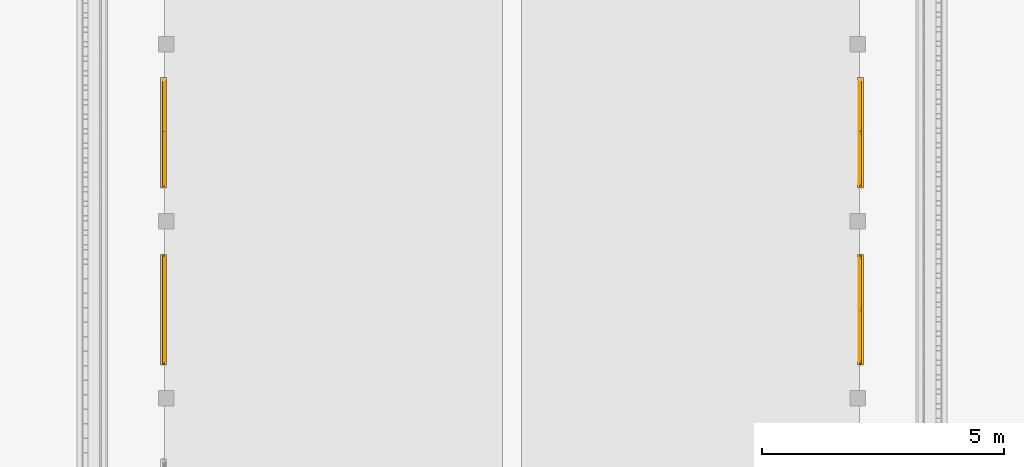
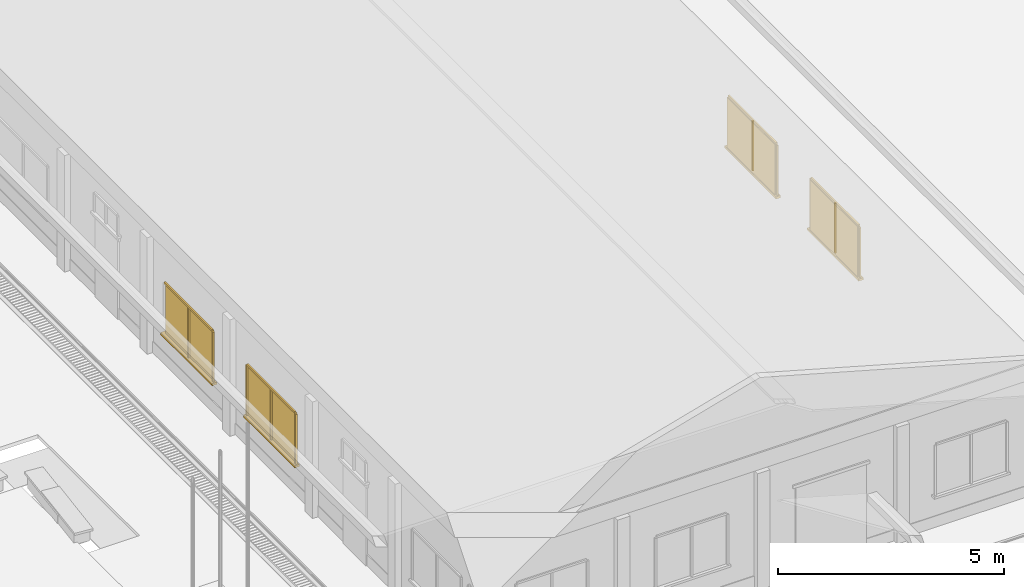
# One storey, part 47 of 151: 22 windows.
"""IFC2X3 building model written with IfcOpenShell, lengths in metres."""

from ifc_helpers import new_model, si_unit, origin, origin_with_axes, place, context, subcontext, project, spatial, faceted_brep, element, save


model = new_model("IFC2X3")

# Units and contexts
model_context = context("Model", 3, precision=1e-05, world=origin_with_axes())
body_context = subcontext(model_context, "Body", "Model", "MODEL_VIEW")
ifc_project = project(units=[si_unit("LENGTHUNIT", "METRE"), si_unit("AREAUNIT", "SQUARE_METRE"), si_unit("VOLUMEUNIT", "CUBIC_METRE"), si_unit("PLANEANGLEUNIT", "RADIAN")], contexts=[model_context])

# Site, building, storey
site_placement = place(None, origin_with_axes())
site = spatial("IfcSite", under=ifc_project, at=site_placement, Name="Predio Los Mangos - Morales, San Martín", CompositionType="ELEMENT")
building_placement = place(site_placement, origin())
building = spatial("IfcBuilding", under=site, at=building_placement, Name="Hogar de Refugio Temporal", CompositionType="ELEMENT")
storey_placement = place(building_placement, origin())
storey = spatial("IfcBuildingStorey", under=building, at=storey_placement, Name="NIVEL 1 (NPT +0.00)", CompositionType="ELEMENT", Elevation=0.0)

# Windows
window_1_placement = place(storey_placement, origin())
element("IfcWindow", 1, at=window_1_placement, inside=storey, Name="E-05_v2_vid", ObjectType="Ventana", context=body_context, shape_type="Brep", body=[
    faceted_brep([(45.26, 65.9941, 1.05), (45.26, 68.1184, 1.05), (45.28, 68.1184, 1.05), (45.28, 65.9941, 1.05), (45.26, 65.9941, 2.4), (45.28, 65.9941, 2.4), (45.28, 68.1184, 2.4), (45.26, 68.1184, 2.4)], [[[0, 1, 2, 3]], [[4, 5, 6, 7]], [[0, 3, 5, 4]], [[3, 2, 6, 5]], [[2, 1, 7, 6]], [[1, 0, 4, 7]]]),
])
window_2_placement = place(storey_placement, origin())
element("IfcWindow", 2, at=window_2_placement, inside=storey, Name="E-05_v2_m", ObjectType="Ventana", context=body_context, shape_type="Brep", body=[
    faceted_brep([(45.22, 65.9441, 1.05), (45.22, 65.9941, 1.05), (45.26, 65.9941, 1.05), (45.26, 65.9441, 1.05), (45.22, 65.9441, 2.4), (45.26, 65.9441, 2.4), (45.26, 65.9941, 2.4), (45.22, 65.9941, 2.4)], [[[0, 1, 2, 3]], [[4, 5, 6, 7]], [[0, 3, 5, 4]], [[3, 2, 6, 5]], [[2, 1, 7, 6]], [[1, 0, 4, 7]]]),
])
window_3_placement = place(storey_placement, origin())
element("IfcWindow", 3, at=window_3_placement, inside=storey, Name="E-05_v2_m", ObjectType="Ventana", context=body_context, shape_type="Brep", body=[
    faceted_brep([(45.22, 68.1184, 1.05), (45.22, 68.1684, 1.05), (45.26, 68.1684, 1.05), (45.26, 68.1184, 1.05), (45.22, 68.1184, 2.4), (45.26, 68.1184, 2.4), (45.26, 68.1684, 2.4), (45.22, 68.1684, 2.4)], [[[0, 1, 2, 3]], [[4, 5, 6, 7]], [[0, 3, 5, 4]], [[3, 2, 6, 5]], [[2, 1, 7, 6]], [[1, 0, 4, 7]]]),
])
window_4_placement = place(storey_placement, origin())
element("IfcWindow", 4, at=window_4_placement, inside=storey, Name="E-05_v2_m", ObjectType="Ventana", context=body_context, shape_type="Brep", body=[
    faceted_brep([(45.22, 65.9941, 2.4), (45.22, 68.1184, 2.4), (45.26, 68.1184, 2.4), (45.26, 65.9941, 2.4), (45.22, 65.9941, 2.45), (45.26, 65.9941, 2.45), (45.26, 68.1184, 2.45), (45.22, 68.1184, 2.45)], [[[0, 1, 2, 3]], [[4, 5, 6, 7]], [[0, 3, 5, 4]], [[3, 2, 6, 5]], [[2, 1, 7, 6]], [[1, 0, 4, 7]]]),
])
window_5_placement = place(storey_placement, origin())
element("IfcWindow", 5, at=window_5_placement, inside=storey, Name="E-05_v2_m", ObjectType="Ventana", context=body_context, shape_type="Brep", body=[
    faceted_brep([(45.22, 67.0312, 1.05), (45.22, 67.0813, 1.05), (45.26, 67.0813, 1.05), (45.26, 67.0312, 1.05), (45.22, 67.0312, 2.4), (45.26, 67.0312, 2.4), (45.26, 67.0813, 2.4), (45.22, 67.0813, 2.4)], [[[0, 1, 2, 3]], [[4, 5, 6, 7]], [[0, 3, 5, 4]], [[3, 2, 6, 5]], [[2, 1, 7, 6]], [[1, 0, 4, 7]]]),
])
window_6_placement = place(storey_placement, origin())
element("IfcWindow", 6, at=window_6_placement, inside=storey, Name="E-05_v2_alf", ObjectType="Ventana", context=body_context, shape_type="Brep", body=[
    faceted_brep([(45.3, 65.9141, 0.99), (45.3, 68.1984, 0.99), (45.18, 68.1984, 0.99), (45.18, 65.9141, 0.99), (45.3, 65.9141, 1.05), (45.18, 65.9141, 1.05), (45.18, 68.1984, 1.05), (45.3, 68.1984, 1.05)], [[[0, 1, 2, 3]], [[4, 5, 6, 7]], [[0, 3, 5, 4]], [[3, 2, 6, 5]], [[2, 1, 7, 6]], [[1, 0, 4, 7]]]),
])
window_7_placement = place(storey_placement, origin())
element("IfcWindow", 7, at=window_7_placement, inside=storey, Name="E-05_v3_vid", ObjectType="Ventana", context=body_context, shape_type="Brep", body=[
    faceted_brep([(45.26, 69.6566, 1.05), (45.26, 71.7809, 1.05), (45.28, 71.7809, 1.05), (45.28, 69.6566, 1.05), (45.26, 69.6566, 2.4), (45.28, 69.6566, 2.4), (45.28, 71.7809, 2.4), (45.26, 71.7809, 2.4)], [[[0, 1, 2, 3]], [[4, 5, 6, 7]], [[0, 3, 5, 4]], [[3, 2, 6, 5]], [[2, 1, 7, 6]], [[1, 0, 4, 7]]]),
])
window_8_placement = place(storey_placement, origin())
element("IfcWindow", 8, at=window_8_placement, inside=storey, Name="E-05_v3_m", ObjectType="Ventana", context=body_context, shape_type="Brep", body=[
    faceted_brep([(45.22, 69.6066, 1.05), (45.22, 69.6566, 1.05), (45.26, 69.6566, 1.05), (45.26, 69.6066, 1.05), (45.22, 69.6066, 2.4), (45.26, 69.6066, 2.4), (45.26, 69.6566, 2.4), (45.22, 69.6566, 2.4)], [[[0, 1, 2, 3]], [[4, 5, 6, 7]], [[0, 3, 5, 4]], [[3, 2, 6, 5]], [[2, 1, 7, 6]], [[1, 0, 4, 7]]]),
])
window_9_placement = place(storey_placement, origin())
element("IfcWindow", 9, at=window_9_placement, inside=storey, Name="E-05_v3_m", ObjectType="Ventana", context=body_context, shape_type="Brep", body=[
    faceted_brep([(45.22, 69.6566, 2.4), (45.22, 71.7809, 2.4), (45.26, 71.7809, 2.4), (45.26, 69.6566, 2.4), (45.22, 69.6566, 2.45), (45.26, 69.6566, 2.45), (45.26, 71.7809, 2.45), (45.22, 71.7809, 2.45)], [[[0, 1, 2, 3]], [[4, 5, 6, 7]], [[0, 3, 5, 4]], [[3, 2, 6, 5]], [[2, 1, 7, 6]], [[1, 0, 4, 7]]]),
])
window_10_placement = place(storey_placement, origin())
element("IfcWindow", 10, at=window_10_placement, inside=storey, Name="E-05_v3_m", ObjectType="Ventana", context=body_context, shape_type="Brep", body=[
    faceted_brep([(45.22, 70.6937, 1.05), (45.22, 70.7438, 1.05), (45.26, 70.7438, 1.05), (45.26, 70.6937, 1.05), (45.22, 70.6937, 2.4), (45.26, 70.6937, 2.4), (45.26, 70.7438, 2.4), (45.22, 70.7438, 2.4)], [[[0, 1, 2, 3]], [[4, 5, 6, 7]], [[0, 3, 5, 4]], [[3, 2, 6, 5]], [[2, 1, 7, 6]], [[1, 0, 4, 7]]]),
])
window_11_placement = place(storey_placement, origin())
element("IfcWindow", 11, at=window_11_placement, inside=storey, Name="E-05_v3_alf", ObjectType="Ventana", context=body_context, shape_type="Brep", body=[
    faceted_brep([(45.3, 69.5766, 0.99), (45.3, 71.8609, 0.99), (45.18, 71.8609, 0.99), (45.18, 69.5766, 0.99), (45.3, 69.5766, 1.05), (45.18, 69.5766, 1.05), (45.18, 71.8609, 1.05), (45.3, 71.8609, 1.05)], [[[0, 1, 2, 3]], [[4, 5, 6, 7]], [[0, 3, 5, 4]], [[3, 2, 6, 5]], [[2, 1, 7, 6]], [[1, 0, 4, 7]]]),
])
window_12_placement = place(storey_placement, origin())
element("IfcWindow", 12, at=window_12_placement, inside=storey, Name="E-05_v2_vid", ObjectType="Ventana", context=body_context, shape_type="Brep", body=[
    faceted_brep([(59.62, 65.9941, 1.05), (59.62, 68.1184, 1.05), (59.64, 68.1184, 1.05), (59.64, 65.9941, 1.05), (59.62, 65.9941, 2.4), (59.64, 65.9941, 2.4), (59.64, 68.1184, 2.4), (59.62, 68.1184, 2.4)], [[[0, 1, 2, 3]], [[4, 5, 6, 7]], [[0, 3, 5, 4]], [[3, 2, 6, 5]], [[2, 1, 7, 6]], [[1, 0, 4, 7]]]),
])
window_13_placement = place(storey_placement, origin())
element("IfcWindow", 13, at=window_13_placement, inside=storey, Name="E-05_v2_m", ObjectType="Ventana", context=body_context, shape_type="Brep", body=[
    faceted_brep([(59.64, 65.9441, 1.05), (59.64, 65.9941, 1.05), (59.68, 65.9941, 1.05), (59.68, 65.9441, 1.05), (59.64, 65.9441, 2.4), (59.68, 65.9441, 2.4), (59.68, 65.9941, 2.4), (59.64, 65.9941, 2.4)], [[[0, 1, 2, 3]], [[4, 5, 6, 7]], [[0, 3, 5, 4]], [[3, 2, 6, 5]], [[2, 1, 7, 6]], [[1, 0, 4, 7]]]),
])
window_14_placement = place(storey_placement, origin())
element("IfcWindow", 14, at=window_14_placement, inside=storey, Name="E-05_v2_m", ObjectType="Ventana", context=body_context, shape_type="Brep", body=[
    faceted_brep([(59.64, 68.1184, 1.05), (59.64, 68.1684, 1.05), (59.68, 68.1684, 1.05), (59.68, 68.1184, 1.05), (59.64, 68.1184, 2.4), (59.68, 68.1184, 2.4), (59.68, 68.1684, 2.4), (59.64, 68.1684, 2.4)], [[[0, 1, 2, 3]], [[4, 5, 6, 7]], [[0, 3, 5, 4]], [[3, 2, 6, 5]], [[2, 1, 7, 6]], [[1, 0, 4, 7]]]),
])
window_15_placement = place(storey_placement, origin())
element("IfcWindow", 15, at=window_15_placement, inside=storey, Name="E-05_v2_m", ObjectType="Ventana", context=body_context, shape_type="Brep", body=[
    faceted_brep([(59.64, 65.9941, 2.4), (59.64, 68.1184, 2.4), (59.68, 68.1184, 2.4), (59.68, 65.9941, 2.4), (59.64, 65.9941, 2.45), (59.68, 65.9941, 2.45), (59.68, 68.1184, 2.45), (59.64, 68.1184, 2.45)], [[[0, 1, 2, 3]], [[4, 5, 6, 7]], [[0, 3, 5, 4]], [[3, 2, 6, 5]], [[2, 1, 7, 6]], [[1, 0, 4, 7]]]),
])
window_16_placement = place(storey_placement, origin())
element("IfcWindow", 16, at=window_16_placement, inside=storey, Name="E-05_v2_m", ObjectType="Ventana", context=body_context, shape_type="Brep", body=[
    faceted_brep([(59.64, 67.0312, 1.05), (59.64, 67.0813, 1.05), (59.68, 67.0813, 1.05), (59.68, 67.0312, 1.05), (59.64, 67.0312, 2.4), (59.68, 67.0312, 2.4), (59.68, 67.0813, 2.4), (59.64, 67.0813, 2.4)], [[[0, 1, 2, 3]], [[4, 5, 6, 7]], [[0, 3, 5, 4]], [[3, 2, 6, 5]], [[2, 1, 7, 6]], [[1, 0, 4, 7]]]),
])
window_17_placement = place(storey_placement, origin())
element("IfcWindow", 17, at=window_17_placement, inside=storey, Name="E-05_v2_alf", ObjectType="Ventana", context=body_context, shape_type="Brep", body=[
    faceted_brep([(59.6, 65.9141, 0.99), (59.6, 68.1984, 0.99), (59.72, 68.1984, 0.99), (59.72, 65.9141, 0.99), (59.6, 65.9141, 1.05), (59.72, 65.9141, 1.05), (59.72, 68.1984, 1.05), (59.6, 68.1984, 1.05)], [[[0, 1, 2, 3]], [[4, 5, 6, 7]], [[0, 3, 5, 4]], [[3, 2, 6, 5]], [[2, 1, 7, 6]], [[1, 0, 4, 7]]]),
])
window_18_placement = place(storey_placement, origin())
element("IfcWindow", 18, at=window_18_placement, inside=storey, Name="E-05_v3_vid", ObjectType="Ventana", context=body_context, shape_type="Brep", body=[
    faceted_brep([(59.62, 69.6566, 1.05), (59.62, 71.7809, 1.05), (59.64, 71.7809, 1.05), (59.64, 69.6566, 1.05), (59.62, 69.6566, 2.4), (59.64, 69.6566, 2.4), (59.64, 71.7809, 2.4), (59.62, 71.7809, 2.4)], [[[0, 1, 2, 3]], [[4, 5, 6, 7]], [[0, 3, 5, 4]], [[3, 2, 6, 5]], [[2, 1, 7, 6]], [[1, 0, 4, 7]]]),
])
window_19_placement = place(storey_placement, origin())
element("IfcWindow", 19, at=window_19_placement, inside=storey, Name="E-05_v3_m", ObjectType="Ventana", context=body_context, shape_type="Brep", body=[
    faceted_brep([(59.64, 69.6066, 1.05), (59.64, 69.6566, 1.05), (59.68, 69.6566, 1.05), (59.68, 69.6066, 1.05), (59.64, 69.6066, 2.4), (59.68, 69.6066, 2.4), (59.68, 69.6566, 2.4), (59.64, 69.6566, 2.4)], [[[0, 1, 2, 3]], [[4, 5, 6, 7]], [[0, 3, 5, 4]], [[3, 2, 6, 5]], [[2, 1, 7, 6]], [[1, 0, 4, 7]]]),
])
window_20_placement = place(storey_placement, origin())
element("IfcWindow", 20, at=window_20_placement, inside=storey, Name="E-05_v3_m", ObjectType="Ventana", context=body_context, shape_type="Brep", body=[
    faceted_brep([(59.64, 69.6566, 2.4), (59.64, 71.7809, 2.4), (59.68, 71.7809, 2.4), (59.68, 69.6566, 2.4), (59.64, 69.6566, 2.45), (59.68, 69.6566, 2.45), (59.68, 71.7809, 2.45), (59.64, 71.7809, 2.45)], [[[0, 1, 2, 3]], [[4, 5, 6, 7]], [[0, 3, 5, 4]], [[3, 2, 6, 5]], [[2, 1, 7, 6]], [[1, 0, 4, 7]]]),
])
window_21_placement = place(storey_placement, origin())
element("IfcWindow", 21, at=window_21_placement, inside=storey, Name="E-05_v3_m", ObjectType="Ventana", context=body_context, shape_type="Brep", body=[
    faceted_brep([(59.64, 70.6937, 1.05), (59.64, 70.7438, 1.05), (59.68, 70.7438, 1.05), (59.68, 70.6937, 1.05), (59.64, 70.6937, 2.4), (59.68, 70.6937, 2.4), (59.68, 70.7438, 2.4), (59.64, 70.7438, 2.4)], [[[0, 1, 2, 3]], [[4, 5, 6, 7]], [[0, 3, 5, 4]], [[3, 2, 6, 5]], [[2, 1, 7, 6]], [[1, 0, 4, 7]]]),
])
window_22_placement = place(storey_placement, origin())
element("IfcWindow", 22, at=window_22_placement, inside=storey, Name="E-05_v3_alf", ObjectType="Ventana", context=body_context, shape_type="Brep", body=[
    faceted_brep([(59.6, 69.5766, 0.99), (59.6, 71.8609, 0.99), (59.72, 71.8609, 0.99), (59.72, 69.5766, 0.99), (59.6, 69.5766, 1.05), (59.72, 69.5766, 1.05), (59.72, 71.8609, 1.05), (59.6, 71.8609, 1.05)], [[[0, 1, 2, 3]], [[4, 5, 6, 7]], [[0, 3, 5, 4]], [[3, 2, 6, 5]], [[2, 1, 7, 6]], [[1, 0, 4, 7]]]),
])

save(model, "model.ifc")
